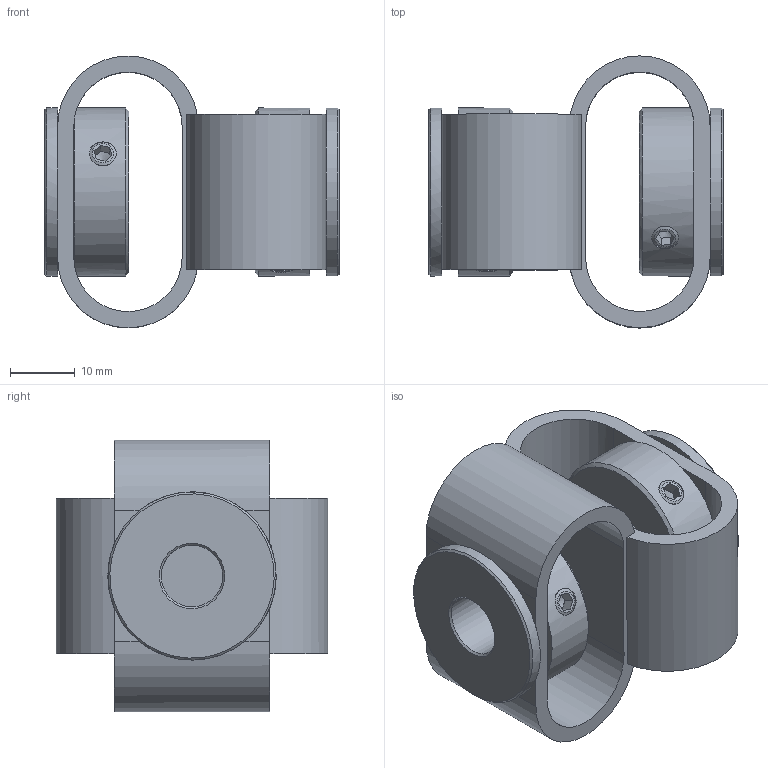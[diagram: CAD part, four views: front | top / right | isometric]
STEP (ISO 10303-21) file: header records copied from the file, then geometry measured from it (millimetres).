
FILE_DESCRIPTION(/* description */ (''),/* implementation_level */ '2;1');
FILE_NAME(/* name */ 'E:\ABP_bauteile\Doppelschlaufenkupplung\DKPS_4848\Doppelschlaufenkupplung_DKPS_4848_95_95.stp',/* time_stamp */ '2015-03-13T14:08:38+01:00',/* author */ ('Rob'),/* organization */ (''),/* preprocessor_version */ 'ST-DEVELOPER v15.6',/* originating_system */ 'Autodesk Inventor 2015',/* authorisation */ '');
FILE_SCHEMA (('CONFIG_CONTROL_DESIGN'));
Length unit declared in the file: millimetre
Products named in the file (1): Bauteil28
Bounding box: 45.55 x 42.03 x 42.03 mm (x, y, z)
Volume: 19857.4 mm3; surface area: 13435.2 mm2
Topology: 1 solids, 2 shells, 134 faces, 311 edges, 188 vertices
Faces by surface type: plane 83, cylinder 27, cone 24
Full cylindrical faces by diameter (mm): 4.134 x8, 9.52 x2, 16.5 x2, 18 x3, 26 x4
Entity records: 3580 total; most frequent: CARTESIAN_POINT 849, DIRECTION 588, ORIENTED_EDGE 470, EDGE_CURVE 235, AXIS2_PLACEMENT_3D 234, EDGE_LOOP 198, VERTEX_POINT 155, FACE_OUTER_BOUND 134
